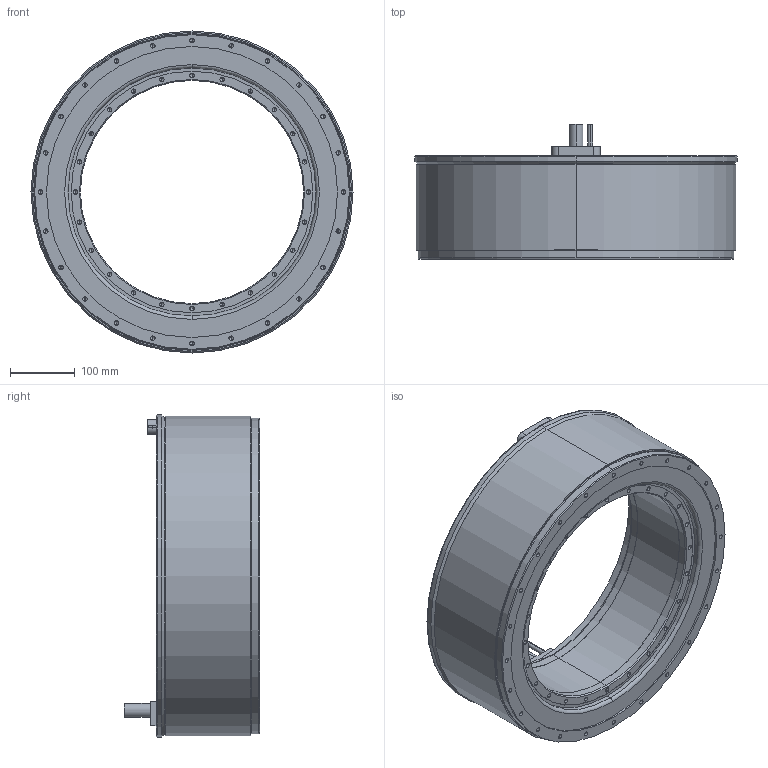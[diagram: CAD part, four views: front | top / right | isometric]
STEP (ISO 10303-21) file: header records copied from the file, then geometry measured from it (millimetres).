
FILE_DESCRIPTION (( 'STEP AP203' ), '1' );
FILE_NAME ('TM-2-DC-SD0(J0).STEP', '2023-06-06T03:04:00', ( '' ), ( '' ), 'SwSTEP 2.0', 'SolidWorks 2015', '' );
FILE_SCHEMA (( 'CONFIG_CONTROL_DESIGN' ));
Length unit declared in the file: millimetre
Products named in the file (3): TM-2-DC-SD0(J0)_Stator; TM-2-DC-SD0(J0); TM-2-DC(J0)_Rotor
Assembly tree (2 placements, depth 2):
  TM-2-DC-SD0(J0)
    TM-2-DC-SD0(J0)_Stator
    TM-2-DC(J0)_Rotor
Bounding box: 498 x 209 x 498 mm (x, y, z)
Volume: 14514336.1 mm3; surface area: 968162.5 mm2
Topology: 2 solids, 2 shells, 553 faces, 1336 edges, 717 vertices
Faces by surface type: cylinder 253, cone 214, plane 74, torus 12
Entity records: 14977 total; most frequent: DIRECTION 2810, CARTESIAN_POINT 2417, ORIENTED_EDGE 2284, EDGE_CURVE 1142, AXIS2_PLACEMENT_3D 1110, VERTEX_POINT 717, EDGE_LOOP 681, LINE 590
